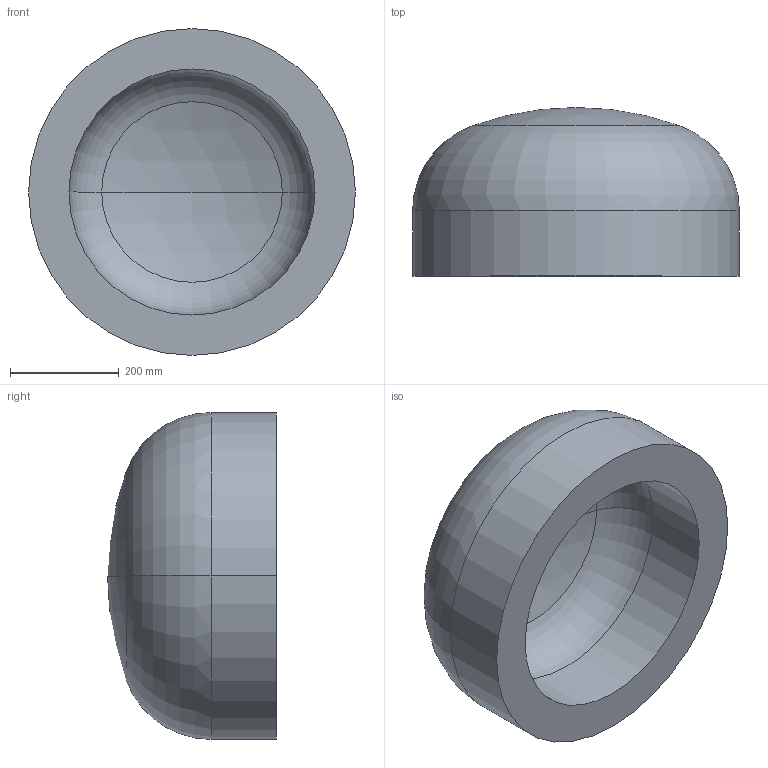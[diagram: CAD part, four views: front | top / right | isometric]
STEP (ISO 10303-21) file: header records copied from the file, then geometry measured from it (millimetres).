
FILE_DESCRIPTION (( 'STEP AP203' ), '1' );
FILE_NAME ('DIN 28013 Korbbogenform_-_Boden DIN 28013 - 600 x 120 - I - s=74.step', '2016-07-01T08:02:53', ( '' ), ( '' ), 'SwSTEP 2.0', 'SolidWorks 2013', '' );
FILE_SCHEMA (( 'CONFIG_CONTROL_DESIGN' ));
Length unit declared in the file: millimetre
Products named in the file (1): DIN 28013 Korbbogenform_-_Boden DIN 28013 - 600 x 120 - I - s=74
Bounding box: 600 x 309.87 x 600 mm (x, y, z)
Volume: 39584953.9 mm3; surface area: 1203615.8 mm2
Topology: 1 solids, 1 shells, 13 faces, 24 edges, 14 vertices
Faces by surface type: torus 4, cylinder 4, sphere 4, plane 1
Entity records: 407 total; most frequent: DIRECTION 72, CARTESIAN_POINT 52, ORIENTED_EDGE 48, AXIS2_PLACEMENT_3D 34, EDGE_CURVE 24, CIRCLE 20, VERTEX_POINT 14, EDGE_LOOP 14
